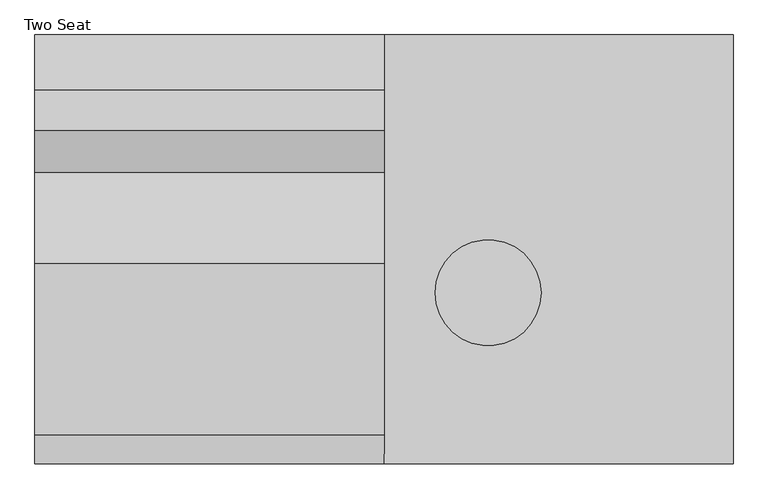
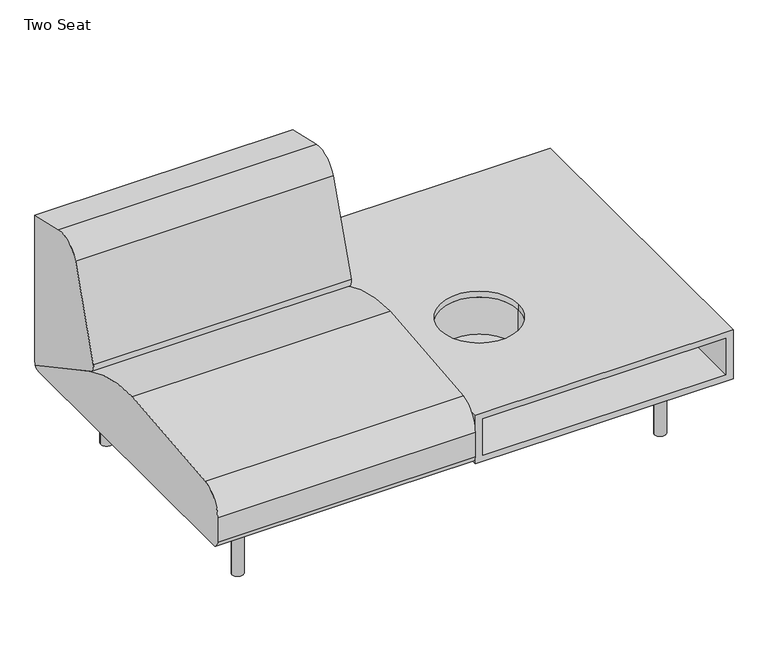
"""IFC4 building model written with IfcOpenShell, lengths in millimetres: furniture geometry, Coalesse_AM_Seating_LoungeChair_Sistema_LegBase_TwoSeat : Two Seat."""

from ifc_helpers import new_model, si_unit, point, frame, frame_2d, origin, origin_with_axes, place, context, project, spatial, polyline, circle_curve, trimmed, segment, composite_curve, outline, extrude, source, transform, mapped, element, save
from ifc_brep_helpers import plane_surface, cylinder_surface, revolved_surface, advanced_brep


def two_seat_81686d64(model_context):
    return source(origin(), model_context, "Body", "SolidModel", [
        extrude(outline(composite_curve([segment(trimmed(circle_curve(frame_2d((989.1765227, 335.9943389)), 6.096), [point((995.2725227, 335.9943389))], [point((983.0805227, 335.9943389))], False, "CARTESIAN"), True, "CONTINUOUS"), segment(trimmed(circle_curve(frame_2d((989.1765227, 335.9943389)), 6.096), [point((983.0805227, 335.9943389))], [point((995.2725227, 335.9943389))], False, "CARTESIAN"), True, "CONTINUOUS")], self_intersect=False)), origin_with_axes(), (0.0, 0.0, 1.0), 4.3662291),
        extrude(outline(composite_curve([segment(trimmed(circle_curve(frame_2d((989.1765227, -327.2630889)), 6.096), [point((995.2725227, -327.2630889))], [point((983.0805227, -327.2630889))], False, "CARTESIAN"), True, "CONTINUOUS"), segment(trimmed(circle_curve(frame_2d((989.1765227, -327.2630889)), 6.096), [point((983.0805227, -327.2630889))], [point((995.2725227, -327.2630889))], False, "CARTESIAN"), True, "CONTINUOUS")], self_intersect=False)), origin_with_axes(), (0.0, 0.0, 1.0), 4.3662291),
        extrude(outline(composite_curve([segment(polyline([(157.0399209, 1001.756375), (201.7356243, 1001.756375)]), True, "CONTINUOUS"), segment(trimmed(circle_curve(frame_2d((201.7356243, 998.708375)), 3.048), [point((201.7356243, 1001.756375))], [point((204.7836243, 998.708375))], False, "CARTESIAN"), True, "CONTINUOUS"), segment(polyline([(204.7836243, 998.708375), (204.7836243, 979.366199)]), True, "CONTINUOUS"), segment(trimmed(circle_curve(frame_2d((201.7356243, 979.366199)), 3.048), [point((204.7836243, 979.366199))], [point((201.7356243, 976.318199))], False, "CARTESIAN"), True, "CONTINUOUS"), segment(polyline([(201.7356243, 976.318199), (157.1249936, 976.318199)]), True, "CONTINUOUS"), segment(trimmed(circle_curve(frame_2d((157.1249936, 979.4512718)), 3.1330728), [point((157.1249936, 976.318199))], [point((153.9919209, 979.4512718))], False, "CARTESIAN"), True, "CONTINUOUS"), segment(polyline([(153.9919209, 979.4512718), (153.9919209, 998.708375)]), True, "CONTINUOUS"), segment(trimmed(circle_curve(frame_2d((157.0399209, 998.708375)), 3.048), [point((153.9919209, 998.708375))], [point((157.0399209, 1001.756375))], False, "CARTESIAN"), True, "CONTINUOUS")], self_intersect=False)), frame((0.0, 222.3519802, 0.0), z_axis=(0.0, 1.0, 0.0), x_axis=(0.0, 0.0, 1.0)), (0.0, 0.0, 1.0), 92.6273161),
        extrude(outline(composite_curve([segment(polyline([(157.0399209, 1001.756375), (201.7356243, 1001.756375)]), True, "CONTINUOUS"), segment(trimmed(circle_curve(frame_2d((201.7356243, 998.708375)), 3.048), [point((201.7356243, 1001.756375))], [point((204.7836243, 998.708375))], False, "CARTESIAN"), True, "CONTINUOUS"), segment(polyline([(204.7836243, 998.708375), (204.7836243, 979.366199)]), True, "CONTINUOUS"), segment(trimmed(circle_curve(frame_2d((201.7356243, 979.366199)), 3.048), [point((204.7836243, 979.366199))], [point((201.7356243, 976.318199))], False, "CARTESIAN"), True, "CONTINUOUS"), segment(polyline([(201.7356243, 976.318199), (157.1249936, 976.318199)]), True, "CONTINUOUS"), segment(trimmed(circle_curve(frame_2d((157.1249936, 979.4512718)), 3.1330728), [point((157.1249936, 976.318199))], [point((153.9919209, 979.4512718))], False, "CARTESIAN"), True, "CONTINUOUS"), segment(polyline([(153.9919209, 979.4512718), (153.9919209, 998.708375)]), True, "CONTINUOUS"), segment(trimmed(circle_curve(frame_2d((157.0399209, 998.708375)), 3.048), [point((153.9919209, 998.708375))], [point((157.0399209, 1001.756375))], False, "CARTESIAN"), True, "CONTINUOUS")], self_intersect=False)), frame((0.0, -314.9792963, 0.0), z_axis=(0.0, 1.0, 0.0), x_axis=(0.0, 0.0, 1.0)), (0.0, 0.0, 1.0), 92.6273161),
        extrude(outline(composite_curve([segment(trimmed(circle_curve(frame_2d((176.3356606, 966.5259944)), 3.048), [point((179.3836606, 966.5259944))], [point((176.3356606, 963.4779944))], False, "CARTESIAN"), True, "CONTINUOUS"), segment(polyline([(176.3356606, 963.4779944), (157.0399209, 963.4779944)]), True, "CONTINUOUS"), segment(trimmed(circle_curve(frame_2d((157.0399209, 966.5259944)), 3.048), [point((157.0399209, 963.4779944))], [point((153.9919209, 966.5259944))], False, "CARTESIAN"), True, "CONTINUOUS"), segment(polyline([(153.9919209, 966.5259944), (153.9919209, 1011.2135501)]), True, "CONTINUOUS"), segment(trimmed(circle_curve(frame_2d((157.056462, 1011.2135501)), 3.0645412), [point((153.9919209, 1011.2135501))], [point((157.056462, 1014.2780913))], False, "CARTESIAN"), True, "CONTINUOUS"), segment(polyline([(157.056462, 1014.2780913), (176.3356606, 1014.2780913)]), True, "CONTINUOUS"), segment(trimmed(circle_curve(frame_2d((176.3356606, 1011.2300913)), 3.048), [point((176.3356606, 1014.2780913))], [point((179.3836606, 1011.2300913))], False, "CARTESIAN"), True, "CONTINUOUS"), segment(polyline([(179.3836606, 1011.2300913), (179.3836606, 966.5259944)]), True, "CONTINUOUS")], self_intersect=False)), frame((0.0, -222.3519802, 0.0), z_axis=(0.0, 1.0, 0.0), x_axis=(0.0, 0.0, 1.0)), (0.0, 0.0, 1.0), 444.7039604),
        extrude(outline(composite_curve([segment(trimmed(circle_curve(frame_2d((989.1765227, 332.3095741)), 16.51), [point((1005.6865227, 332.3095741))], [point((972.6665227, 332.3095741))], False, "CARTESIAN"), True, "CONTINUOUS"), segment(trimmed(circle_curve(frame_2d((989.1765227, 332.3095741)), 16.51), [point((972.6665227, 332.3095741))], [point((1005.6865227, 332.3095741))], False, "CARTESIAN"), True, "CONTINUOUS")], self_intersect=False)), frame((0.0, 0.0, 4.3662291), z_axis=(0.0, 0.0, 1.0), x_axis=(1.0, 0.0, 0.0)), (0.0, 0.0, 1.0), 200.1037709),
        extrude(outline(composite_curve([segment(trimmed(circle_curve(frame_2d((988.7796477, -327.5470741)), 16.51), [point((1005.2896477, -327.5470741))], [point((972.2696477, -327.5470741))], False, "CARTESIAN"), True, "CONTINUOUS"), segment(trimmed(circle_curve(frame_2d((988.7796477, -327.5470741)), 16.51), [point((972.2696477, -327.5470741))], [point((1005.2896477, -327.5470741))], False, "CARTESIAN"), True, "CONTINUOUS")], self_intersect=False)), frame((0.0, 0.0, 4.3662291), z_axis=(0.0, 0.0, 1.0), x_axis=(1.0, 0.0, 0.0)), (0.0, 0.0, 1.0), 200.1037709),
        extrude(outline(composite_curve([segment(polyline([(459.4795619, 673.6041325), (459.4795619, 228.1929806)]), True, "CONTINUOUS"), segment(trimmed(circle_curve(frame_2d((191.495971, 228.1929806)), 267.983591), [point((459.4795619, 228.1929806))], [point((458.9860775, 211.937276))], False, "CARTESIAN"), True, "CONTINUOUS"), segment(polyline([(458.9860775, 211.937276), (177.4990556, 364.1028799)]), True, "CONTINUOUS"), segment(trimmed(circle_curve(frame_2d((189.5778307, 386.4470781)), 25.4), [point((177.4990556, 364.1028799))], [point((164.9600055, 392.7018911))], False, "CARTESIAN"), True, "CONTINUOUS"), segment(trimmed(circle_curve(frame_2d((1918.112812, -52.7331923)), 1808.8552115), [point((164.9600055, 392.7018911))], [point((254.1018253, 656.5090883))], False, "CARTESIAN"), True, "CONTINUOUS"), segment(trimmed(circle_curve(frame_2d((324.2001043, 626.6314831)), 76.2), [point((254.1018253, 656.5090883))], [point((341.3413746, 700.8784821))], False, "CARTESIAN"), True, "CONTINUOUS"), segment(polyline([(341.3413746, 700.8784821), (459.4795619, 673.6041325)]), True, "CONTINUOUS")], self_intersect=False)), frame((-374.8034773, 0.0, 0.0), z_axis=(1.0, 0.0, 0.0), x_axis=(0.0, 1.0, 0.0)), (0.0, 0.0, 1.0), 749.3),
        extrude(outline(composite_curve([segment(trimmed(circle_curve(frame_2d((-438.9184381, 226.822)), 22.352), [point((-438.9184381, 204.47))], [point((-461.2704381, 226.822))], False, "CARTESIAN"), True, "CONTINUOUS"), segment(polyline([(-461.2704381, 226.822), (-461.2704381, 301.4421993)]), True, "CONTINUOUS"), segment(trimmed(circle_curve(frame_2d((-385.0704381, 301.4421993)), 76.2), [point((-461.2704381, 301.4421993))], [point((-398.9277015, 376.3716077))], False, "CARTESIAN"), True, "CONTINUOUS"), segment(trimmed(circle_curve(frame_2d((2.2103559, -1792.6740646)), 2205.8265729), [point((-398.9277015, 376.3716077))], [point((-31.1968175, 412.8995185))], False, "CARTESIAN"), True, "CONTINUOUS"), segment(trimmed(circle_curve(frame_2d((-24.5128424, -28.3829182)), 441.333054), [point((-31.1968175, 412.8995185))], [point((184.5757008, 360.2774035))], False, "CARTESIAN"), True, "CONTINUOUS"), segment(polyline([(184.5757008, 360.2774035), (458.9860775, 211.937276)]), True, "CONTINUOUS"), segment(trimmed(circle_curve(frame_2d((442.3266309, 226.7871991)), 22.3171991), [point((458.9860775, 211.937276))], [point((442.3266309, 204.47))], False, "CARTESIAN"), True, "CONTINUOUS"), segment(polyline([(442.3266309, 204.47), (-438.9184381, 204.47)]), True, "CONTINUOUS")], self_intersect=False)), frame((-374.8034773, 0.0, 0.0), z_axis=(1.0, 0.0, 0.0), x_axis=(0.0, 1.0, 0.0)), (0.0, 0.0, 1.0), 749.3),
        advanced_brep(
        [(484.2332034, -93.7879891, 336.5210652), (711.5952223, -93.7879891, 336.5210652), (711.5952223, -93.7879891, 223.173587), (711.5952223, -93.7879891, 212.4123377), (484.2332034, -93.7879891, 212.4123377), (484.2332034, -93.7879891, 223.173587), (469.9892458, -93.7879891, 212.4123377), (725.8391799, -93.7879891, 212.4123377), (469.9892458, -93.7879891, 336.5210652), (725.8391799, -93.7879891, 336.5210652)],
        [
            (0, 1, circle_curve(frame((597.9142128, -93.7879891, 336.5210652), z_axis=(0.0, 0.0, 1.0), x_axis=(1.0, 0.0, 0.0)), 113.6810095)),
            (1, 2),
            (2, 3),
            (3, 4, circle_curve(frame((597.9142128, -93.7879891, 212.4123377), z_axis=(0.0, 0.0, -1.0), x_axis=(1.0, 0.0, 0.0)), 113.6810095)),
            (4, 5),
            (5, 0),
            (6, 7, circle_curve(frame((597.9142128, -93.7879891, 212.4123377), z_axis=(0.0, 0.0, -1.0), x_axis=(1.0, 0.0, 0.0)), 127.924967)),
            (7, 6, circle_curve(frame((597.9142128, -93.7879891, 212.4123377), z_axis=(0.0, 0.0, -1.0), x_axis=(1.0, 0.0, 0.0)), 127.924967)),
            (3, 4, circle_curve(frame((597.9142128, -93.7879891, 212.4123377), z_axis=(0.0, 0.0, 1.0), x_axis=(1.0, 0.0, 0.0)), 113.6810095)),
            (8, 9, circle_curve(frame((597.9142128, -93.7879891, 336.5210652), z_axis=(0.0, 0.0, 1.0), x_axis=(1.0, 0.0, 0.0)), 127.924967)),
            (9, 8, circle_curve(frame((597.9142128, -93.7879891, 336.5210652), z_axis=(0.0, 0.0, 1.0), x_axis=(1.0, 0.0, 0.0)), 127.924967)),
            (0, 1, circle_curve(frame((597.9142128, -93.7879891, 336.5210652), z_axis=(0.0, 0.0, -1.0), x_axis=(1.0, 0.0, 0.0)), 113.6810095)),
            (8, 6),
            (7, 9),
        ],
        [
            revolved_surface(polyline([(711.5952222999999, -93.7879891, 212.4123377), (711.5952222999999, -93.7879891, 336.5210652)]), (597.9142128, -93.7879891, 212.4123377), (0.0, 0.0, -1.0)),
            plane_surface(frame((711.5952223, -93.7879891, 212.4123377), z_axis=(0.0, 0.0, -1.0), x_axis=(0.0, 1.0, 0.0))),
            plane_surface(frame((711.5952223, -93.7879891, 336.5210652), z_axis=(0.0, 0.0, 1.0), x_axis=(0.0, -1.0, 0.0))),
            cylinder_surface(frame((597.9142128, -93.7879891, 0.0), z_axis=(0.0, 0.0, 1.0), x_axis=(1.0, 0.0, 0.0)), 127.924967),
        ],
        [
            (0, [[1, 2, 3, 4, 5, 6]]),
            (1, [[7, 8], [-4, 9]]),
            (2, [[10, 11], [12, -1]]),
            (0, [[-12, -6, -5, -9, -3, -2]]),
            (3, [[-10, 13, -8, 14]]),
            (3, [[-11, -14, -7, -13]]),
        ],
    ),
        advanced_brep(
        [(1102.9069667, -461.2704381, 336.5211742), (396.2928302, -461.2704381, 336.5211742), (396.2928302, 459.4795619, 336.5211742), (1102.9069667, 459.4795619, 336.5211742), (711.5952223, -93.7879891, 336.5211742), (484.2332034, -93.7879891, 336.5211742), (1123.7965227, -461.2704381, 354.7774), (374.4965227, -461.2704381, 354.7774), (374.4965227, -461.2704381, 204.47), (1123.7965227, -461.2704381, 204.47), (1102.9069667, -461.2704381, 223.173587), (396.2928302, -461.2704381, 223.173587), (1123.7965227, 459.4795619, 354.7774), (1123.7965227, 459.4795619, 204.47), (374.4965227, 459.4795619, 204.47), (374.4965227, 459.4795619, 354.7774), (396.2928302, 459.4795619, 223.173587), (1102.9069667, 459.4795619, 223.173587), (484.2332034, -93.7879891, 354.7774), (711.5952223, -93.7879891, 354.7774)],
        [
            (0, 1),
            (1, 2),
            (2, 3),
            (3, 0),
            (4, 5, circle_curve(frame((597.9142128, -93.7879891, 336.5211742), z_axis=(0.0, 0.0, 1.0), x_axis=(1.0, 0.0, 0.0)), 113.6810095)),
            (5, 4, circle_curve(frame((597.9142128, -93.7879891, 336.5211742), z_axis=(0.0, 0.0, 1.0), x_axis=(1.0, 0.0, 0.0)), 113.6810095)),
            (6, 7),
            (7, 8),
            (8, 9),
            (9, 6),
            (0, 10),
            (10, 11),
            (11, 1),
            (12, 13),
            (13, 14),
            (14, 15),
            (15, 12),
            (2, 16),
            (16, 17),
            (17, 3),
            (6, 12),
            (15, 7),
            (18, 19, circle_curve(frame((597.9142128, -93.7879891, 354.7774), z_axis=(0.0, 0.0, -1.0), x_axis=(1.0, 0.0, 0.0)), 113.6810095)),
            (19, 18, circle_curve(frame((597.9142128, -93.7879891, 354.7774), z_axis=(0.0, 0.0, -1.0), x_axis=(1.0, 0.0, 0.0)), 113.6810095)),
            (14, 8),
            (13, 9),
            (11, 16),
            (17, 10),
            (18, 5),
            (4, 19),
        ],
        [
            plane_surface(frame((396.2928302, -461.2704381, 336.5211742), z_axis=(0.0, 0.0, -1.0), x_axis=(0.0, 1.0, 0.0))),
            plane_surface(frame((378.0346424, -461.2704381, 354.7774), z_axis=(0.0, -1.0, 0.0), x_axis=(-1.0, 0.0, 0.0))),
            plane_surface(frame((378.0346424, 459.4795619, 354.7774), z_axis=(0.0, 1.0, 0.0), x_axis=(1.0, 0.0, 0.0))),
            plane_surface(frame((1123.7965227, -461.2704381, 354.7774), z_axis=(0.0, 0.0, 1.0), x_axis=(0.0, 1.0, 0.0))),
            plane_surface(frame((374.4965227, -461.2704381, 354.7774), z_axis=(-1.0, 0.0, 0.0), x_axis=(0.0, 1.0, 0.0))),
            plane_surface(frame((374.4965227, -461.2704381, 204.47), z_axis=(0.0, 0.0, -1.0), x_axis=(0.0, 1.0, 0.0))),
            plane_surface(frame((1123.7965227, -461.2704381, 204.47), z_axis=(1.0, 0.0, 0.0), x_axis=(0.0, 1.0, 0.0))),
            plane_surface(frame((396.2928302, -461.2704381, 223.173587), z_axis=(1.0, 0.0, 0.0), x_axis=(0.0, 1.0, 0.0))),
            plane_surface(frame((1102.9069667, -461.2704381, 336.5211742), z_axis=(-1.0, 0.0, 0.0), x_axis=(0.0, 1.0, 0.0))),
            plane_surface(frame((1102.9069667, -461.2704381, 223.173587), z_axis=(0.0, 0.0, 1.0), x_axis=(0.0, 1.0, 0.0))),
            revolved_surface(polyline([(711.5952222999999, -93.7879891, 336.5211742), (711.5952222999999, -93.7879891, 354.7774)]), (597.9142128, -93.7879891, 354.7774), (0.0, 0.0, -1.0)),
        ],
        [
            (0, [[1, 2, 3, 4], [5, 6]]),
            (1, [[7, 8, 9, 10], [11, 12, 13, -1]]),
            (2, [[14, 15, 16, 17], [-3, 18, 19, 20]]),
            (3, [[-7, 21, -17, 22], [23, 24]]),
            (4, [[-8, -22, -16, 25]]),
            (5, [[-9, -25, -15, 26]]),
            (6, [[-10, -26, -14, -21]]),
            (7, [[-13, 27, -18, -2]]),
            (8, [[-11, -4, -20, 28]]),
            (9, [[-12, -28, -19, -27]]),
            (10, [[29, -5, 30, -23]]),
            (10, [[-29, -24, -30, -6]]),
        ],
    ),
        extrude(outline(composite_curve([segment(trimmed(circle_curve(frame_2d((-240.1834773, 335.9943389)), 6.096), [point((-246.2794773, 335.9943389))], [point((-234.0874773, 335.9943389))], False, "CARTESIAN"), True, "CONTINUOUS"), segment(trimmed(circle_curve(frame_2d((-240.1834773, 335.9943389)), 6.096), [point((-234.0874773, 335.9943389))], [point((-246.2794773, 335.9943389))], False, "CARTESIAN"), True, "CONTINUOUS")], self_intersect=False)), origin_with_axes(), (0.0, 0.0, 1.0), 4.3662291),
        extrude(outline(composite_curve([segment(trimmed(circle_curve(frame_2d((-240.1834773, -327.2630889)), 6.096), [point((-246.2794773, -327.2630889))], [point((-234.0874773, -327.2630889))], False, "CARTESIAN"), True, "CONTINUOUS"), segment(trimmed(circle_curve(frame_2d((-240.1834773, -327.2630889)), 6.096), [point((-234.0874773, -327.2630889))], [point((-246.2794773, -327.2630889))], False, "CARTESIAN"), True, "CONTINUOUS")], self_intersect=False)), origin_with_axes(), (0.0, 0.0, 1.0), 4.3662291),
        extrude(outline(composite_curve([segment(trimmed(circle_curve(frame_2d((157.0399209, -249.7153296)), 3.048), [point((157.0399209, -252.7633296))], [point((153.9919209, -249.7153296))], False, "CARTESIAN"), True, "CONTINUOUS"), segment(polyline([(153.9919209, -249.7153296), (153.9919209, -230.4582264)]), True, "CONTINUOUS"), segment(trimmed(circle_curve(frame_2d((157.1249936, -230.4582264)), 3.1330728), [point((153.9919209, -230.4582264))], [point((157.1249936, -227.3251537))], False, "CARTESIAN"), True, "CONTINUOUS"), segment(polyline([(157.1249936, -227.3251537), (201.7356243, -227.3251537)]), True, "CONTINUOUS"), segment(trimmed(circle_curve(frame_2d((201.7356243, -230.3731537)), 3.048), [point((201.7356243, -227.3251537))], [point((204.7836243, -230.3731537))], False, "CARTESIAN"), True, "CONTINUOUS"), segment(polyline([(204.7836243, -230.3731537), (204.7836243, -249.7153296)]), True, "CONTINUOUS"), segment(trimmed(circle_curve(frame_2d((201.7356243, -249.7153296)), 3.048), [point((204.7836243, -249.7153296))], [point((201.7356243, -252.7633296))], False, "CARTESIAN"), True, "CONTINUOUS"), segment(polyline([(201.7356243, -252.7633296), (157.0399209, -252.7633296)]), True, "CONTINUOUS")], self_intersect=False)), frame((0.0, 222.3519802, 0.0), z_axis=(0.0, 1.0, 0.0), x_axis=(0.0, 0.0, 1.0)), (0.0, 0.0, 1.0), 92.6273161),
        extrude(outline(composite_curve([segment(trimmed(circle_curve(frame_2d((157.0399209, -249.7153296)), 3.048), [point((157.0399209, -252.7633296))], [point((153.9919209, -249.7153296))], False, "CARTESIAN"), True, "CONTINUOUS"), segment(polyline([(153.9919209, -249.7153296), (153.9919209, -230.4582264)]), True, "CONTINUOUS"), segment(trimmed(circle_curve(frame_2d((157.1249936, -230.4582264)), 3.1330728), [point((153.9919209, -230.4582264))], [point((157.1249936, -227.3251537))], False, "CARTESIAN"), True, "CONTINUOUS"), segment(polyline([(157.1249936, -227.3251537), (201.7356243, -227.3251537)]), True, "CONTINUOUS"), segment(trimmed(circle_curve(frame_2d((201.7356243, -230.3731537)), 3.048), [point((201.7356243, -227.3251537))], [point((204.7836243, -230.3731537))], False, "CARTESIAN"), True, "CONTINUOUS"), segment(polyline([(204.7836243, -230.3731537), (204.7836243, -249.7153296)]), True, "CONTINUOUS"), segment(trimmed(circle_curve(frame_2d((201.7356243, -249.7153296)), 3.048), [point((204.7836243, -249.7153296))], [point((201.7356243, -252.7633296))], False, "CARTESIAN"), True, "CONTINUOUS"), segment(polyline([(201.7356243, -252.7633296), (157.0399209, -252.7633296)]), True, "CONTINUOUS")], self_intersect=False)), frame((0.0, -314.9792963, 0.0), z_axis=(0.0, 1.0, 0.0), x_axis=(0.0, 0.0, 1.0)), (0.0, 0.0, 1.0), 92.6273161),
        extrude(outline(composite_curve([segment(polyline([(179.3836606, -217.532949), (179.3836606, -262.2370459)]), True, "CONTINUOUS"), segment(trimmed(circle_curve(frame_2d((176.3356606, -262.2370459)), 3.048), [point((179.3836606, -262.2370459))], [point((176.3356606, -265.2850459))], False, "CARTESIAN"), True, "CONTINUOUS"), segment(polyline([(176.3356606, -265.2850459), (157.056462, -265.2850459)]), True, "CONTINUOUS"), segment(trimmed(circle_curve(frame_2d((157.056462, -262.2205047)), 3.0645412), [point((157.056462, -265.2850459))], [point((153.9919209, -262.2205047))], False, "CARTESIAN"), True, "CONTINUOUS"), segment(polyline([(153.9919209, -262.2205047), (153.9919209, -217.532949)]), True, "CONTINUOUS"), segment(trimmed(circle_curve(frame_2d((157.0399209, -217.532949)), 3.048), [point((153.9919209, -217.532949))], [point((157.0399209, -214.484949))], False, "CARTESIAN"), True, "CONTINUOUS"), segment(polyline([(157.0399209, -214.484949), (176.3356606, -214.484949)]), True, "CONTINUOUS"), segment(trimmed(circle_curve(frame_2d((176.3356606, -217.532949)), 3.048), [point((176.3356606, -214.484949))], [point((179.3836606, -217.532949))], False, "CARTESIAN"), True, "CONTINUOUS")], self_intersect=False)), frame((0.0, -222.3519802, 0.0), z_axis=(0.0, 1.0, 0.0), x_axis=(0.0, 0.0, 1.0)), (0.0, 0.0, 1.0), 444.7039604),
        extrude(outline(composite_curve([segment(trimmed(circle_curve(frame_2d((-240.1834773, 332.3095741)), 16.51), [point((-256.6934773, 332.3095741))], [point((-223.6734773, 332.3095741))], False, "CARTESIAN"), True, "CONTINUOUS"), segment(trimmed(circle_curve(frame_2d((-240.1834773, 332.3095741)), 16.51), [point((-223.6734773, 332.3095741))], [point((-256.6934773, 332.3095741))], False, "CARTESIAN"), True, "CONTINUOUS")], self_intersect=False)), frame((0.0, 0.0, 4.3662291), z_axis=(0.0, 0.0, 1.0), x_axis=(1.0, 0.0, 0.0)), (0.0, 0.0, 1.0), 200.1037709),
        extrude(outline(composite_curve([segment(trimmed(circle_curve(frame_2d((-239.7866023, -327.5470741)), 16.51), [point((-256.2966023, -327.5470741))], [point((-223.2766023, -327.5470741))], False, "CARTESIAN"), True, "CONTINUOUS"), segment(trimmed(circle_curve(frame_2d((-239.7866023, -327.5470741)), 16.51), [point((-223.2766023, -327.5470741))], [point((-256.2966023, -327.5470741))], False, "CARTESIAN"), True, "CONTINUOUS")], self_intersect=False)), frame((0.0, 0.0, 4.3662291), z_axis=(0.0, 0.0, 1.0), x_axis=(1.0, 0.0, 0.0)), (0.0, 0.0, 1.0), 200.1037709),
    ])


if __name__ == "__main__":
    model = new_model("IFC4")
    model_context = context("Model", 3, world=origin())
    ifc_project = project(units=[si_unit("LENGTHUNIT", "METRE", prefix="MILLI")], contexts=[model_context])
    site = spatial("IfcSite", under=ifc_project)
    building = spatial("IfcBuilding", under=site)
    placement = place(None, origin())
    two_seat_shape = two_seat_81686d64(model_context)
    element("IfcFurniture", 1, ObjectType="Coalesse_AM_Seating_LoungeChair_Sistema_LegBase_TwoSeat : Two Seat", at=placement, inside=building, context=model_context, shape_type="MappedRepresentation", body=[
        mapped(two_seat_shape, transform((0.0, 0.0, 0.0), x_axis=(1.0, 0.0, 0.0), y_axis=(0.0, 1.0, 0.0), z_axis=(0.0, 0.0, 1.0))),
    ])
    save(model, "model.ifc")
